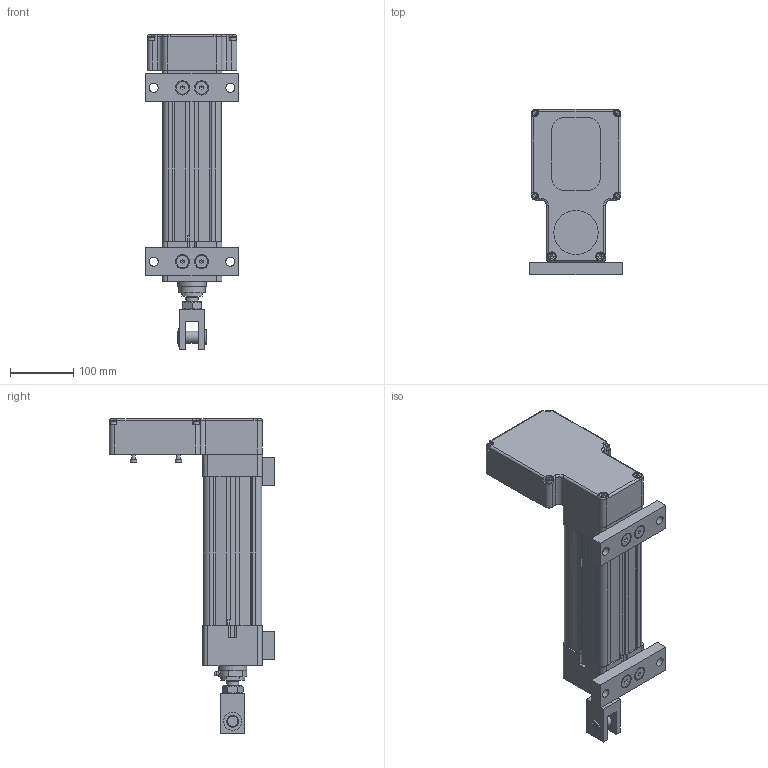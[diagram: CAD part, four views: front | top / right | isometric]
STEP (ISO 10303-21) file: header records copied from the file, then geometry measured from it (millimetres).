
FILE_DESCRIPTION (( 'STEP AP203' ), '1' );
FILE_NAME ('RSA50_BN02_SK5.000_RS-477297-1.step', '2024-12-20T19:04:11', ( '' ), ( '' ), 'SwSTEP 2.0', 'SolidWorks 2024', '' );
FILE_SCHEMA (( 'CONFIG_CONTROL_DESIGN' ));
Length unit declared in the file: inch
Products named in the file (5): Base_RSA50_BN02_SK5.000_RS-477297-1; RSA50_BN02_SK5.000_RS-477297-1; 11509023_RSA50_BN02_SK5.000_RS-477297-1; 11509396_RSA50_BN02_SK5.000_RS-477297-1; tempJoin0_11509327_RSA50_BN02_SK5.000_RS-477297-1
Assembly tree (5 placements, depth 2):
  RSA50_BN02_SK5.000_RS-477297-1
    11509396_RSA50_BN02_SK5.000_RS-477297-1
    11509023_RSA50_BN02_SK5.000_RS-477297-1  x2
    tempJoin0_11509327_RSA50_BN02_SK5.000_RS-477297-1
    Base_RSA50_BN02_SK5.000_RS-477297-1
Bounding box: 146.05 x 260.6 x 496.2 mm (x, y, z)
Volume: 3510642.9 mm3; surface area: 565127 mm2
Topology: 15 solids, 19 shells, 991 faces, 2403 edges, 1535 vertices
Faces by surface type: plane 587, cylinder 298, cone 96, bspline 6, torus 4
Full cylindrical faces by diameter (mm): 4.2 x4, 5 x4, 5.08 x1, 6 x8, 6.528 x4, 7.938 x4, 8.433 x2, 9.525 x4, 10 x8, 11.252 x4, 13 x6, 13.462 x4, 14.275 x4, 14.288 x2, 16.967 x2, 17.462 x2, 19.05 x5, 19.075 x2, 19.837 x4, 20.637 x1, 23.876 x1, 28.448 x1, 29.337 x2, 29.464 x2, 33.02 x2, 41.275 x2, 44.45 x3, 50.673 x1, 69.85 x1, 75.26 x1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
Entity records: 27711 total; most frequent: CARTESIAN_POINT 5536, DIRECTION 4634, ORIENTED_EDGE 4172, EDGE_CURVE 2086, AXIS2_PLACEMENT_3D 1690, VERTEX_POINT 1408, LINE 1254, VECTOR 1254
